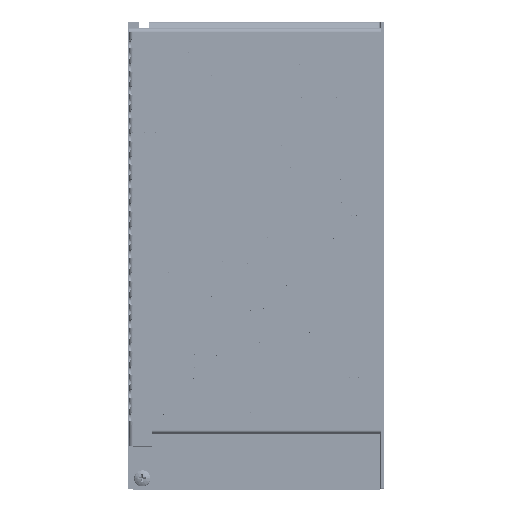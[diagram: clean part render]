
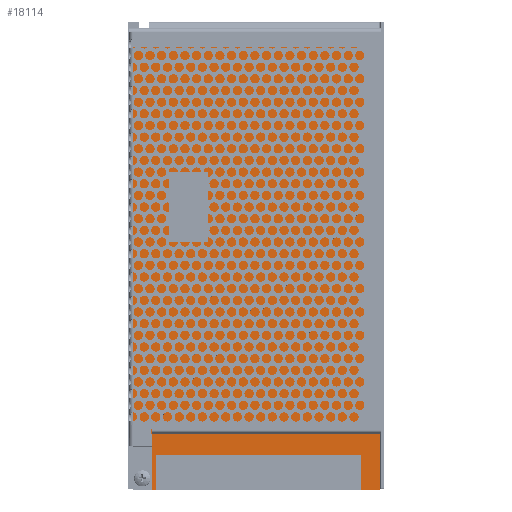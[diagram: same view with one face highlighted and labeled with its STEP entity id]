
A CAD part, top view. The second image highlights one B-rep face of the part: STEP entity #18114.
In plain terms, the highlighted planar face has unit normal (0, 0, 1).
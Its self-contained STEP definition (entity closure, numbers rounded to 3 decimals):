
#1422 = CARTESIAN_POINT ( 'NONE',  ( -89.353, -106.979, 181.162 ) ) ;
#2257 = ORIENTED_EDGE ( 'NONE', *, *, #60368, .T. ) ;
#2472 = ORIENTED_EDGE ( 'NONE', *, *, #39276, .T. ) ;
#2820 = ORIENTED_EDGE ( 'NONE', *, *, #29076, .T. ) ;
#4034 = LINE ( 'NONE', #17109, #76192 ) ;
#4841 = CARTESIAN_POINT ( 'NONE',  ( -99.353, 83.021, 181.162 ) ) ;
#8222 = VERTEX_POINT ( 'NONE', #1422 ) ;
#9399 = ORIENTED_EDGE ( 'NONE', *, *, #24405, .T. ) ;
#10188 = CARTESIAN_POINT ( 'NONE',  ( -1.353, -106.979, 181.162 ) ) ;
#10435 = EDGE_CURVE ( 'NONE', #76974, #73453, #72817, .T. ) ;
#11224 = VERTEX_POINT ( 'NONE', #50200 ) ;
#12605 = CARTESIAN_POINT ( 'NONE',  ( -1.353, -106.979, 181.162 ) ) ;
#15947 = CARTESIAN_POINT ( 'NONE',  ( 6.647, 83.021, 181.162 ) ) ;
#17109 = CARTESIAN_POINT ( 'NONE',  ( 6.647, -91.979, 181.162 ) ) ;
#17921 = CARTESIAN_POINT ( 'NONE',  ( 6.647, -106.979, 181.162 ) ) ;
#18114 = ADVANCED_FACE ( 'NONE', ( #22751 ), #65298, .T. ) ;
#18219 = ORIENTED_EDGE ( 'NONE', *, *, #39583, .T. ) ;
#18264 = LINE ( 'NONE', #24632, #75294 ) ;
#18331 = CARTESIAN_POINT ( 'NONE',  ( 6.647, -106.979, 181.162 ) ) ;
#20352 = DIRECTION ( 'NONE',  ( 0., -1., 0. ) ) ;
#22222 = VECTOR ( 'NONE', #37003, 1000. ) ;
#22751 = FACE_OUTER_BOUND ( 'NONE', #53520, .T. ) ;
#23473 = DIRECTION ( 'NONE',  ( 1., 0., 0. ) ) ;
#24405 = EDGE_CURVE ( 'NONE', #31262, #11224, #29480, .T. ) ;
#24632 = CARTESIAN_POINT ( 'NONE',  ( 6.647, -106.979, 181.162 ) ) ;
#28127 = LINE ( 'NONE', #58336, #45967 ) ;
#29076 = EDGE_CURVE ( 'NONE', #73273, #76974, #42403, .T. ) ;
#29465 = DIRECTION ( 'NONE',  ( 0., -1., 0. ) ) ;
#29480 = LINE ( 'NONE', #18331, #22222 ) ;
#31262 = VERTEX_POINT ( 'NONE', #10188 ) ;
#35027 = CARTESIAN_POINT ( 'NONE',  ( -99.353, -106.979, 181.162 ) ) ;
#37003 = DIRECTION ( 'NONE',  ( 1., 0., 0. ) ) ;
#37240 = DIRECTION ( 'NONE',  ( 0., -1., 0. ) ) ;
#39248 = ORIENTED_EDGE ( 'NONE', *, *, #43481, .T. ) ;
#39276 = EDGE_CURVE ( 'NONE', #73453, #8222, #18264, .T. ) ;
#39583 = EDGE_CURVE ( 'NONE', #59855, #31262, #67090, .T. ) ;
#41801 = CARTESIAN_POINT ( 'NONE',  ( -99.353, -106.979, 181.162 ) ) ;
#42403 = LINE ( 'NONE', #43571, #67148 ) ;
#42515 = DIRECTION ( 'NONE',  ( 1., 0., 0. ) ) ;
#43446 = CARTESIAN_POINT ( 'NONE',  ( -89.353, -91.979, 181.162 ) ) ;
#43481 = EDGE_CURVE ( 'NONE', #11224, #73273, #28127, .T. ) ;
#43571 = CARTESIAN_POINT ( 'NONE',  ( 6.647, 83.021, 181.162 ) ) ;
#44972 = LINE ( 'NONE', #74857, #70727 ) ;
#45967 = VECTOR ( 'NONE', #76672, 1000. ) ;
#48510 = DIRECTION ( 'NONE',  ( 0., 0., 1. ) ) ;
#48751 = DIRECTION ( 'NONE',  ( -1., 0., 0. ) ) ;
#49101 = CARTESIAN_POINT ( 'NONE',  ( -1.353, -91.979, 181.162 ) ) ;
#50200 = CARTESIAN_POINT ( 'NONE',  ( 6.647, -106.979, 181.162 ) ) ;
#53520 = EDGE_LOOP ( 'NONE', ( #72958, #2257, #18219, #9399, #39248, #2820, #60402, #2472 ) ) ;
#54972 = VECTOR ( 'NONE', #37240, 1000. ) ;
#57591 = EDGE_CURVE ( 'NONE', #61281, #8222, #44972, .T. ) ;
#58336 = CARTESIAN_POINT ( 'NONE',  ( 6.647, -106.979, 181.162 ) ) ;
#59855 = VERTEX_POINT ( 'NONE', #49101 ) ;
#60368 = EDGE_CURVE ( 'NONE', #61281, #59855, #4034, .T. ) ;
#60402 = ORIENTED_EDGE ( 'NONE', *, *, #10435, .T. ) ;
#61281 = VERTEX_POINT ( 'NONE', #43446 ) ;
#65298 = PLANE ( 'NONE',  #65659 ) ;
#65659 = AXIS2_PLACEMENT_3D ( 'NONE', #17921, #48510, #29465 ) ;
#67028 = VECTOR ( 'NONE', #77644, 1000. ) ;
#67090 = LINE ( 'NONE', #12605, #54972 ) ;
#67148 = VECTOR ( 'NONE', #48751, 1000. ) ;
#70727 = VECTOR ( 'NONE', #20352, 1000. ) ;
#72817 = LINE ( 'NONE', #41801, #67028 ) ;
#72958 = ORIENTED_EDGE ( 'NONE', *, *, #57591, .F. ) ;
#73273 = VERTEX_POINT ( 'NONE', #15947 ) ;
#73453 = VERTEX_POINT ( 'NONE', #35027 ) ;
#74857 = CARTESIAN_POINT ( 'NONE',  ( -89.353, -106.979, 181.162 ) ) ;
#75294 = VECTOR ( 'NONE', #42515, 1000. ) ;
#76192 = VECTOR ( 'NONE', #23473, 1000. ) ;
#76672 = DIRECTION ( 'NONE',  ( 0., 1., 0. ) ) ;
#76974 = VERTEX_POINT ( 'NONE', #4841 ) ;
#77644 = DIRECTION ( 'NONE',  ( 0., -1., 0. ) ) ;
